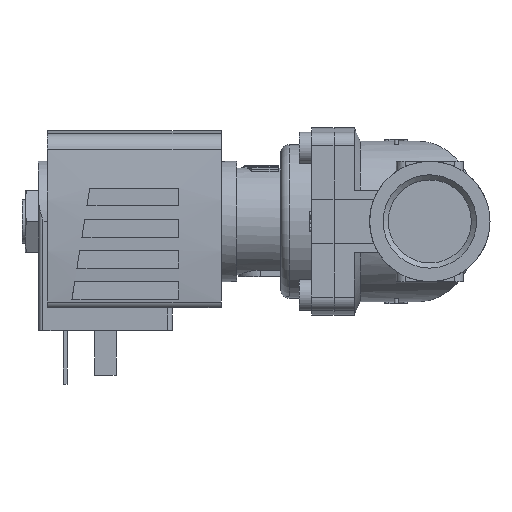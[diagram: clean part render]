
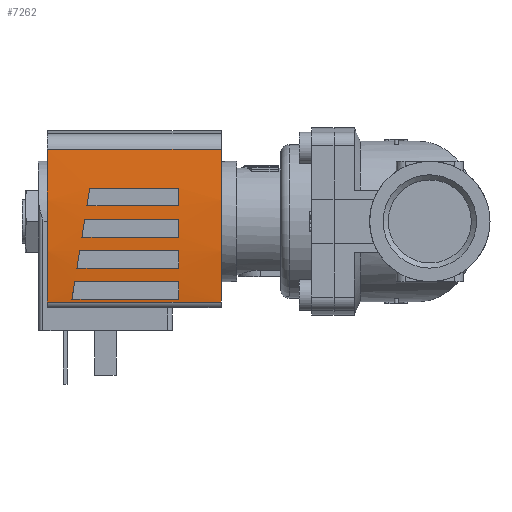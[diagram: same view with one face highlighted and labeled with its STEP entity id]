
A CAD part, left-side view. The second image highlights one B-rep face of the part: STEP entity #7262.
In plain terms, the highlighted cylindrical face has radius 130 mm (diameter 260 mm), a partial arc.
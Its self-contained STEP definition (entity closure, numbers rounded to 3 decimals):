
#163=ELLIPSE('',#7859,131.653,130.);
#164=ELLIPSE('',#7861,131.653,130.);
#165=ELLIPSE('',#7864,131.653,130.);
#166=ELLIPSE('',#7866,131.653,130.);
#250=CYLINDRICAL_SURFACE('',#7858,130.);
#665=LINE('',#11383,#1191);
#667=LINE('',#11403,#1193);
#668=LINE('',#11407,#1194);
#669=LINE('',#11408,#1195);
#670=LINE('',#11413,#1196);
#671=LINE('',#11418,#1197);
#672=LINE('',#11422,#1198);
#673=LINE('',#11426,#1199);
#674=LINE('',#11430,#1200);
#675=LINE('',#11434,#1201);
#1191=VECTOR('',#9356,1000.);
#1193=VECTOR('',#9378,1000.);
#1194=VECTOR('',#9381,1000.);
#1195=VECTOR('',#9382,1000.);
#1196=VECTOR('',#9385,1000.);
#1197=VECTOR('',#9390,1000.);
#1198=VECTOR('',#9393,1000.);
#1199=VECTOR('',#9396,1000.);
#1200=VECTOR('',#9399,1000.);
#1201=VECTOR('',#9402,1000.);
#2655=ORIENTED_EDGE('',*,*,#3732,.F.);
#2656=ORIENTED_EDGE('',*,*,#3733,.F.);
#2657=ORIENTED_EDGE('',*,*,#3734,.F.);
#2658=ORIENTED_EDGE('',*,*,#3735,.F.);
#2659=ORIENTED_EDGE('',*,*,#3736,.F.);
#2660=ORIENTED_EDGE('',*,*,#3737,.F.);
#2661=ORIENTED_EDGE('',*,*,#3738,.F.);
#2662=ORIENTED_EDGE('',*,*,#3739,.F.);
#2663=ORIENTED_EDGE('',*,*,#3740,.T.);
#2664=ORIENTED_EDGE('',*,*,#3741,.F.);
#2665=ORIENTED_EDGE('',*,*,#3726,.F.);
#2666=ORIENTED_EDGE('',*,*,#3723,.T.);
#2667=ORIENTED_EDGE('',*,*,#3742,.F.);
#2668=ORIENTED_EDGE('',*,*,#3743,.F.);
#2669=ORIENTED_EDGE('',*,*,#3744,.F.);
#2670=ORIENTED_EDGE('',*,*,#3745,.F.);
#2671=ORIENTED_EDGE('',*,*,#3746,.F.);
#2672=ORIENTED_EDGE('',*,*,#3747,.F.);
#2673=ORIENTED_EDGE('',*,*,#3748,.F.);
#2674=ORIENTED_EDGE('',*,*,#3749,.F.);
#3723=EDGE_CURVE('',#4367,#4366,#665,.T.);
#3726=EDGE_CURVE('',#4367,#4369,#4661,.T.);
#3732=EDGE_CURVE('',#4373,#4374,#163,.T.);
#3733=EDGE_CURVE('',#4375,#4373,#667,.F.);
#3734=EDGE_CURVE('',#4376,#4375,#4666,.T.);
#3735=EDGE_CURVE('',#4374,#4376,#668,.T.);
#3736=EDGE_CURVE('',#4377,#4378,#669,.T.);
#3737=EDGE_CURVE('',#4379,#4377,#164,.T.);
#3738=EDGE_CURVE('',#4380,#4379,#670,.F.);
#3739=EDGE_CURVE('',#4378,#4380,#4667,.T.);
#3740=EDGE_CURVE('',#4366,#4381,#4668,.T.);
#3741=EDGE_CURVE('',#4369,#4381,#671,.T.);
#3742=EDGE_CURVE('',#4382,#4383,#165,.T.);
#3743=EDGE_CURVE('',#4384,#4382,#672,.F.);
#3744=EDGE_CURVE('',#4385,#4384,#4669,.T.);
#3745=EDGE_CURVE('',#4383,#4385,#673,.T.);
#3746=EDGE_CURVE('',#4386,#4387,#166,.T.);
#3747=EDGE_CURVE('',#4388,#4386,#674,.F.);
#3748=EDGE_CURVE('',#4389,#4388,#4670,.T.);
#3749=EDGE_CURVE('',#4387,#4389,#675,.T.);
#4366=VERTEX_POINT('',#11382);
#4367=VERTEX_POINT('',#11384);
#4369=VERTEX_POINT('',#11390);
#4373=VERTEX_POINT('',#11401);
#4374=VERTEX_POINT('',#11402);
#4375=VERTEX_POINT('',#11404);
#4376=VERTEX_POINT('',#11406);
#4377=VERTEX_POINT('',#11409);
#4378=VERTEX_POINT('',#11410);
#4379=VERTEX_POINT('',#11412);
#4380=VERTEX_POINT('',#11414);
#4381=VERTEX_POINT('',#11417);
#4382=VERTEX_POINT('',#11420);
#4383=VERTEX_POINT('',#11421);
#4384=VERTEX_POINT('',#11423);
#4385=VERTEX_POINT('',#11425);
#4386=VERTEX_POINT('',#11428);
#4387=VERTEX_POINT('',#11429);
#4388=VERTEX_POINT('',#11431);
#4389=VERTEX_POINT('',#11433);
#4661=CIRCLE('',#7853,130.);
#4666=CIRCLE('',#7860,130.);
#4667=CIRCLE('',#7862,130.);
#4668=CIRCLE('',#7863,130.);
#4669=CIRCLE('',#7865,130.);
#4670=CIRCLE('',#7867,130.);
#4994=EDGE_LOOP('',(#2655,#2656,#2657,#2658));
#4995=EDGE_LOOP('',(#2659,#2660,#2661,#2662));
#4996=EDGE_LOOP('',(#2663,#2664,#2665,#2666));
#4997=EDGE_LOOP('',(#2667,#2668,#2669,#2670));
#4998=EDGE_LOOP('',(#2671,#2672,#2673,#2674));
#5396=FACE_BOUND('',#4994,.T.);
#5397=FACE_BOUND('',#4995,.T.);
#5398=FACE_BOUND('',#4996,.T.);
#5399=FACE_BOUND('',#4997,.T.);
#5400=FACE_BOUND('',#4998,.T.);
#7262=ADVANCED_FACE('',(#5396,#5397,#5398,#5399,#5400),#250,.T.);
#7853=AXIS2_PLACEMENT_3D('',#11389,#9363,#9364);
#7858=AXIS2_PLACEMENT_3D('',#11399,#9374,#9375);
#7859=AXIS2_PLACEMENT_3D('',#11400,#9376,#9377);
#7860=AXIS2_PLACEMENT_3D('',#11405,#9379,#9380);
#7861=AXIS2_PLACEMENT_3D('',#11411,#9383,#9384);
#7862=AXIS2_PLACEMENT_3D('',#11415,#9386,#9387);
#7863=AXIS2_PLACEMENT_3D('',#11416,#9388,#9389);
#7864=AXIS2_PLACEMENT_3D('',#11419,#9391,#9392);
#7865=AXIS2_PLACEMENT_3D('',#11424,#9394,#9395);
#7866=AXIS2_PLACEMENT_3D('',#11427,#9397,#9398);
#7867=AXIS2_PLACEMENT_3D('',#11432,#9400,#9401);
#9356=DIRECTION('',(0.,-1.,0.));
#9363=DIRECTION('',(0.,1.,0.));
#9364=DIRECTION('',(1.,0.,0.));
#9374=DIRECTION('',(0.,-1.,0.));
#9375=DIRECTION('',(0.,0.,-1.));
#9376=DIRECTION('',(-0.158,-0.987,0.));
#9377=DIRECTION('',(0.987,-0.158,0.));
#9378=DIRECTION('',(0.,-1.,0.));
#9379=DIRECTION('',(0.,1.,0.));
#9380=DIRECTION('',(0.,0.,1.));
#9381=DIRECTION('',(0.,-1.,0.));
#9382=DIRECTION('',(0.,-1.,0.));
#9383=DIRECTION('',(-0.158,-0.987,0.));
#9384=DIRECTION('',(0.987,-0.158,0.));
#9385=DIRECTION('',(0.,-1.,0.));
#9386=DIRECTION('',(0.,1.,0.));
#9387=DIRECTION('',(0.,0.,1.));
#9388=DIRECTION('',(0.,1.,0.));
#9389=DIRECTION('',(1.,0.,0.));
#9390=DIRECTION('',(0.,-1.,0.));
#9391=DIRECTION('',(-0.158,-0.987,0.));
#9392=DIRECTION('',(0.987,-0.158,0.));
#9393=DIRECTION('',(0.,-1.,0.));
#9394=DIRECTION('',(0.,1.,0.));
#9395=DIRECTION('',(0.,0.,1.));
#9396=DIRECTION('',(0.,-1.,0.));
#9397=DIRECTION('',(-0.158,-0.987,0.));
#9398=DIRECTION('',(0.987,-0.158,0.));
#9399=DIRECTION('',(0.,-1.,0.));
#9400=DIRECTION('',(0.,1.,0.));
#9401=DIRECTION('',(0.,0.,1.));
#9402=DIRECTION('',(0.,-1.,0.));
#11382=CARTESIAN_POINT('',(-18.071,-26.,14.738));
#11383=CARTESIAN_POINT('',(-18.071,13.,14.738));
#11384=CARTESIAN_POINT('',(-18.071,13.,14.738));
#11389=CARTESIAN_POINT('',(0.,13.,-114.));
#11390=CARTESIAN_POINT('',(16.195,13.,14.987));
#11399=CARTESIAN_POINT('',(0.,13.,-114.));
#11400=CARTESIAN_POINT('',(0.,4.7,-114.));
#11401=CARTESIAN_POINT('',(0.5,4.62,15.999));
#11402=CARTESIAN_POINT('',(-3.5,5.26,15.953));
#11403=CARTESIAN_POINT('',(0.5,13.,15.999));
#11404=CARTESIAN_POINT('',(0.5,-16.5,15.999));
#11405=CARTESIAN_POINT('',(0.,-16.5,-114.));
#11406=CARTESIAN_POINT('',(-3.5,-16.5,15.953));
#11407=CARTESIAN_POINT('',(-3.5,13.,15.953));
#11408=CARTESIAN_POINT('',(-17.5,13.,14.817));
#11409=CARTESIAN_POINT('',(-17.5,7.5,14.817));
#11410=CARTESIAN_POINT('',(-17.5,-16.5,14.817));
#11411=CARTESIAN_POINT('',(0.,4.7,-114.));
#11412=CARTESIAN_POINT('',(-13.5,6.86,15.297));
#11413=CARTESIAN_POINT('',(-13.5,13.,15.297));
#11414=CARTESIAN_POINT('',(-13.5,-16.5,15.297));
#11415=CARTESIAN_POINT('',(0.,-16.5,-114.));
#11416=CARTESIAN_POINT('',(0.,-26.,-114.));
#11417=CARTESIAN_POINT('',(16.195,-26.,14.987));
#11418=CARTESIAN_POINT('',(16.195,13.,14.987));
#11419=CARTESIAN_POINT('',(0.,4.7,-114.));
#11420=CARTESIAN_POINT('',(-6.5,5.74,15.837));
#11421=CARTESIAN_POINT('',(-10.5,6.38,15.575));
#11422=CARTESIAN_POINT('',(-6.5,13.,15.837));
#11423=CARTESIAN_POINT('',(-6.5,-16.5,15.837));
#11424=CARTESIAN_POINT('',(0.,-16.5,-114.));
#11425=CARTESIAN_POINT('',(-10.5,-16.5,15.575));
#11426=CARTESIAN_POINT('',(-10.5,13.,15.575));
#11427=CARTESIAN_POINT('',(0.,4.7,-114.));
#11428=CARTESIAN_POINT('',(7.5,3.5,15.783));
#11429=CARTESIAN_POINT('',(3.5,4.14,15.953));
#11430=CARTESIAN_POINT('',(7.5,13.,15.783));
#11431=CARTESIAN_POINT('',(7.5,-16.5,15.783));
#11432=CARTESIAN_POINT('',(0.,-16.5,-114.));
#11433=CARTESIAN_POINT('',(3.5,-16.5,15.953));
#11434=CARTESIAN_POINT('',(3.5,13.,15.953));
